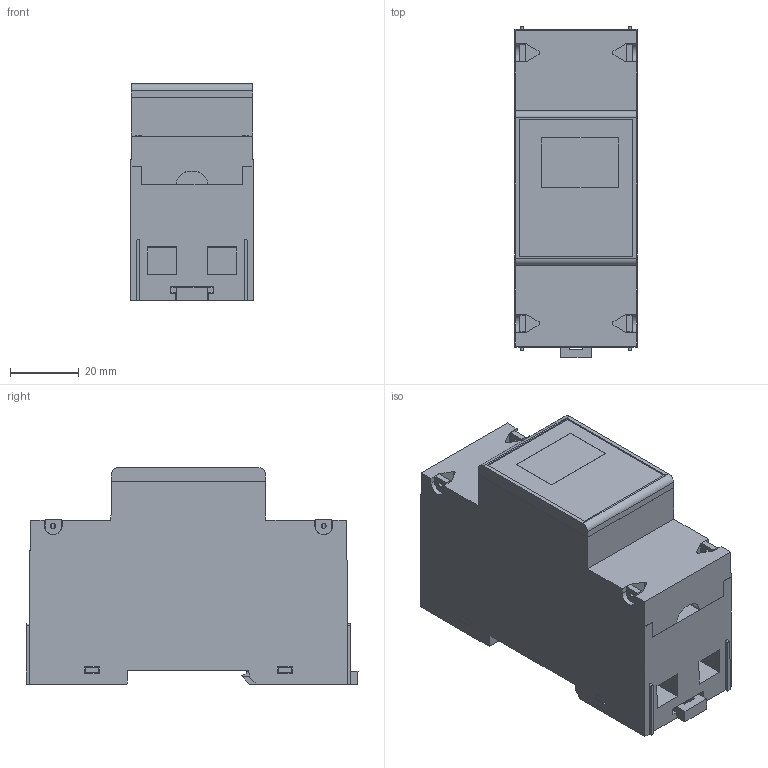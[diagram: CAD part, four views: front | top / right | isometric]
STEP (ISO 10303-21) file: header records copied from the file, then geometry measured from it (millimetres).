
FILE_DESCRIPTION((''),'2;1');
FILE_NAME('2P-10-18-3D_ASM','2023-03-09T08:58:11',('SESA651364'),('Schneider-Electric'),'CREO PARAMETRIC BY PTC INC, 2021284','CREO PARAMETRIC BY PTC INC, 2021284','');
FILE_SCHEMA(('AP242_MANAGED_MODEL_BASED_3D_ENGINEERING_MIM_LF { 1 0 10303 442 1 1 4 }'));
Length unit declared in the file: millimetre
Products named in the file (6): 2P-10-18; GLASS; GLASS-3D_ASM; CLIP; CLIP_ASM; 2P-10-18-3D_ASM
Assembly tree (5 placements, depth 3):
  2P-10-18-3D_ASM
    2P-10-18
    GLASS-3D_ASM
      GLASS
    CLIP_ASM
      CLIP
Bounding box: 35.8 x 96.71 x 63 mm (x, y, z)
Volume: 164316 mm3; surface area: 31161.3 mm2
Topology: 3 solids, 3 shells, 280 faces, 739 edges, 488 vertices
Faces by surface type: plane 250, cylinder 26, extrusion 4
Entity records: 11363 total; most frequent: CARTESIAN_POINT 1716, ORIENTED_EDGE 1478, DIRECTION 1359, PRESENTATION_STYLE_ASSIGNMENT 744, STYLED_ITEM 742, CURVE_STYLE 739, EDGE_CURVE 739, VECTOR 661
